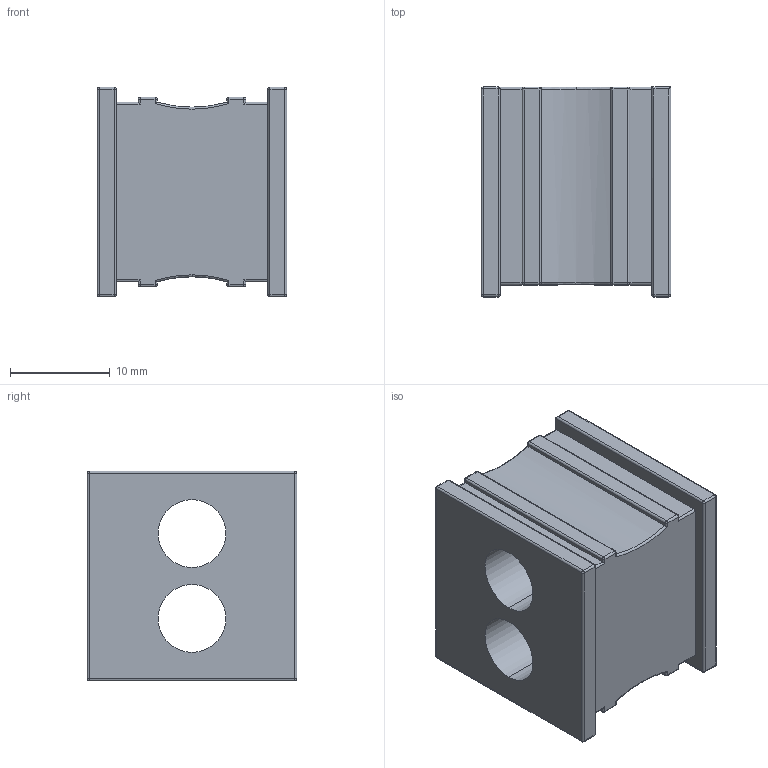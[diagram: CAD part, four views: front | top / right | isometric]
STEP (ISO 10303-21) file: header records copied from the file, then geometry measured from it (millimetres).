
FILE_DESCRIPTION (( 'STEP AP203' ), '1' );
FILE_NAME ('041202 KT2-7.STEP', '2023-03-06T01:27:34', ( '' ), ( '' ), 'SwSTEP 2.0', 'SolidWorks 2016', '' );
FILE_SCHEMA (( 'CONFIG_CONTROL_DESIGN' ));
Length unit declared in the file: millimetre
Products named in the file (1): 041202 KT2-7
Bounding box: 19 x 21 x 21 mm (x, y, z)
Volume: 5681.3 mm3; surface area: 3232.3 mm2
Topology: 1 solids, 1 shells, 159 faces, 382 edges, 197 vertices
Faces by surface type: cylinder 73, bspline 53, plane 33
Entity records: 5270 total; most frequent: CARTESIAN_POINT 1980, ORIENTED_EDGE 702, DIRECTION 623, EDGE_CURVE 351, AXIS2_PLACEMENT_3D 226, VERTEX_POINT 197, LINE 171, VECTOR 171
